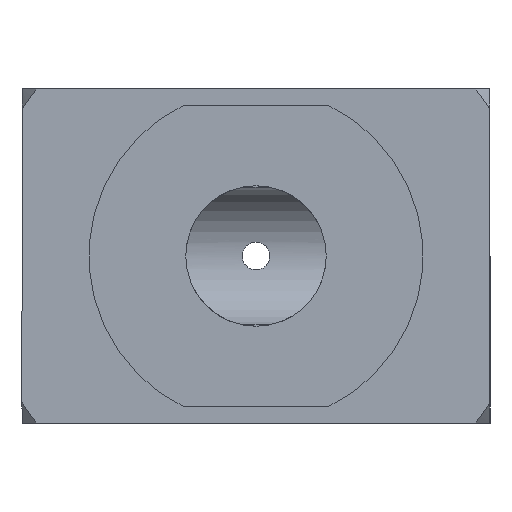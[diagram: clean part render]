
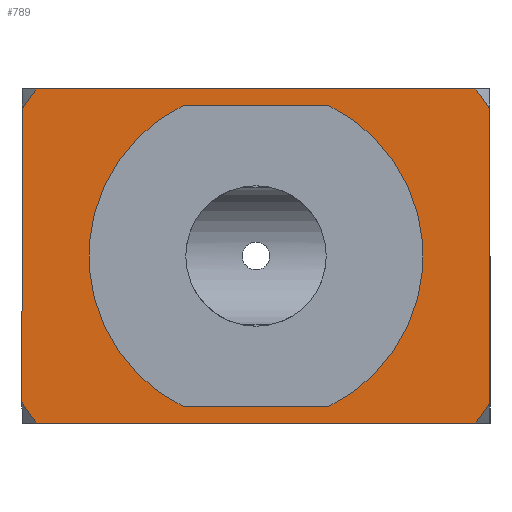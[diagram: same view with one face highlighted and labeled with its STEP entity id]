
A CAD part, left-side view. The second image highlights one B-rep face of the part: STEP entity #789.
In plain terms, the highlighted planar face has unit normal (-1, 0, 0).
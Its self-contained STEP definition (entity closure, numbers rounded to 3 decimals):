
#3 = AXIS2_PLACEMENT_3D ( 'NONE', #591, #626, #702 ) ;
#11 = FACE_OUTER_BOUND ( 'NONE', #879, .T. ) ;
#20 = EDGE_LOOP ( 'NONE', ( #630, #113, #525, #538 ) ) ;
#38 = DIRECTION ( 'NONE',  ( 0., -1., 0. ) ) ;
#39 = LINE ( 'NONE', #969, #76 ) ;
#46 = ORIENTED_EDGE ( 'NONE', *, *, #845, .T. ) ;
#52 = AXIS2_PLACEMENT_3D ( 'NONE', #611, #431, #697 ) ;
#72 = VECTOR ( 'NONE', #854, 1000. ) ;
#76 = VECTOR ( 'NONE', #886, 1000. ) ;
#105 = VECTOR ( 'NONE', #400, 1000. ) ;
#113 = ORIENTED_EDGE ( 'NONE', *, *, #475, .F. ) ;
#121 = ORIENTED_EDGE ( 'NONE', *, *, #169, .T. ) ;
#146 = VECTOR ( 'NONE', #244, 1000. ) ;
#169 = EDGE_CURVE ( 'NONE', #776, #603, #216, .T. ) ;
#170 = PLANE ( 'NONE',  #52 ) ;
#175 = VERTEX_POINT ( 'NONE', #233 ) ;
#180 = CARTESIAN_POINT ( 'NONE',  ( 4.8, 14., -0.634 ) ) ;
#188 = EDGE_CURVE ( 'NONE', #687, #175, #762, .T. ) ;
#216 = LINE ( 'NONE', #754, #105 ) ;
#233 = CARTESIAN_POINT ( 'NONE',  ( 4.8, 13.562, 0. ) ) ;
#235 = CIRCLE ( 'NONE', #1057, 8.25 ) ;
#237 = CARTESIAN_POINT ( 'NONE',  ( 4.8, 0., 0. ) ) ;
#244 = DIRECTION ( 'NONE',  ( 0., 1., 0. ) ) ;
#286 = VERTEX_POINT ( 'NONE', #688 ) ;
#287 = CARTESIAN_POINT ( 'NONE',  ( 4.8, 7., -5. ) ) ;
#298 = ORIENTED_EDGE ( 'NONE', *, *, #1007, .F. ) ;
#299 = VERTEX_POINT ( 'NONE', #421 ) ;
#316 = VECTOR ( 'NONE', #1028, 1000. ) ;
#320 = EDGE_CURVE ( 'NONE', #738, #175, #770, .T. ) ;
#323 = ORIENTED_EDGE ( 'NONE', *, *, #1093, .T. ) ;
#335 = CARTESIAN_POINT ( 'NONE',  ( 4.8, 14., -9.366 ) ) ;
#345 = CARTESIAN_POINT ( 'NONE',  ( 4.8, 0., -0.634 ) ) ;
#353 = LINE ( 'NONE', #942, #72 ) ;
#385 = AXIS2_PLACEMENT_3D ( 'NONE', #985, #486, #1070 ) ;
#389 = AXIS2_PLACEMENT_3D ( 'NONE', #287, #466, #798 ) ;
#400 = DIRECTION ( 'NONE',  ( 0., -1., 0. ) ) ;
#410 = AXIS2_PLACEMENT_3D ( 'NONE', #857, #534, #853 ) ;
#421 = CARTESIAN_POINT ( 'NONE',  ( 4.8, 9.179, -9.5 ) ) ;
#430 = CARTESIAN_POINT ( 'NONE',  ( 4.8, 7., -5. ) ) ;
#431 = DIRECTION ( 'NONE',  ( -1., 0., 0. ) ) ;
#460 = VERTEX_POINT ( 'NONE', #804 ) ;
#461 = CARTESIAN_POINT ( 'NONE',  ( 4.8, 0., -9.366 ) ) ;
#462 = FACE_BOUND ( 'NONE', #20, .T. ) ;
#466 = DIRECTION ( 'NONE',  ( -1., 0., 0. ) ) ;
#475 = EDGE_CURVE ( 'NONE', #299, #765, #706, .T. ) ;
#477 = VECTOR ( 'NONE', #38, 1000. ) ;
#485 = CIRCLE ( 'NONE', #982, 8.25 ) ;
#486 = DIRECTION ( 'NONE',  ( -1., 0., 0. ) ) ;
#492 = EDGE_CURVE ( 'NONE', #286, #460, #39, .T. ) ;
#507 = VERTEX_POINT ( 'NONE', #461 ) ;
#510 = ORIENTED_EDGE ( 'NONE', *, *, #188, .T. ) ;
#511 = EDGE_CURVE ( 'NONE', #765, #286, #608, .T. ) ;
#515 = CIRCLE ( 'NONE', #410, 8.25 ) ;
#525 = ORIENTED_EDGE ( 'NONE', *, *, #612, .F. ) ;
#526 = DIRECTION ( 'NONE',  ( 0., 0., 1. ) ) ;
#534 = DIRECTION ( 'NONE',  ( 1., 0., 0. ) ) ;
#538 = ORIENTED_EDGE ( 'NONE', *, *, #492, .F. ) ;
#591 = CARTESIAN_POINT ( 'NONE',  ( 4.8, 7., -5. ) ) ;
#603 = VERTEX_POINT ( 'NONE', #995 ) ;
#604 = DIRECTION ( 'NONE',  ( 1., 0., 0. ) ) ;
#608 = CIRCLE ( 'NONE', #389, 5. ) ;
#611 = CARTESIAN_POINT ( 'NONE',  ( 4.8, 0., 0. ) ) ;
#612 = EDGE_CURVE ( 'NONE', #460, #299, #966, .T. ) ;
#618 = DIRECTION ( 'NONE',  ( 0., 0., 1. ) ) ;
#626 = DIRECTION ( 'NONE',  ( 1., 0., 0. ) ) ;
#630 = ORIENTED_EDGE ( 'NONE', *, *, #511, .F. ) ;
#686 = ORIENTED_EDGE ( 'NONE', *, *, #815, .F. ) ;
#687 = VERTEX_POINT ( 'NONE', #759 ) ;
#688 = CARTESIAN_POINT ( 'NONE',  ( 4.8, 4.821, -0.5 ) ) ;
#691 = CARTESIAN_POINT ( 'NONE',  ( 4.8, 0., 0. ) ) ;
#697 = DIRECTION ( 'NONE',  ( 0., 0., 1. ) ) ;
#702 = DIRECTION ( 'NONE',  ( 0., 0., 1. ) ) ;
#706 = LINE ( 'NONE', #1053, #477 ) ;
#738 = VERTEX_POINT ( 'NONE', #180 ) ;
#754 = CARTESIAN_POINT ( 'NONE',  ( 4.8, 0., -10. ) ) ;
#759 = CARTESIAN_POINT ( 'NONE',  ( 4.8, 0.438, 0. ) ) ;
#762 = LINE ( 'NONE', #237, #146 ) ;
#765 = VERTEX_POINT ( 'NONE', #910 ) ;
#770 = CIRCLE ( 'NONE', #3, 8.25 ) ;
#771 = CARTESIAN_POINT ( 'NONE',  ( 4.8, 7., -5. ) ) ;
#773 = DIRECTION ( 'NONE',  ( 1., 0., 0. ) ) ;
#776 = VERTEX_POINT ( 'NONE', #1023 ) ;
#789 = ADVANCED_FACE ( 'NONE', ( #462, #11 ), #170, .T. ) ;
#798 = DIRECTION ( 'NONE',  ( 0., 0., 1. ) ) ;
#804 = CARTESIAN_POINT ( 'NONE',  ( 4.8, 9.179, -0.5 ) ) ;
#815 = EDGE_CURVE ( 'NONE', #507, #603, #485, .T. ) ;
#825 = VERTEX_POINT ( 'NONE', #335 ) ;
#830 = LINE ( 'NONE', #691, #316 ) ;
#845 = EDGE_CURVE ( 'NONE', #738, #825, #353, .T. ) ;
#853 = DIRECTION ( 'NONE',  ( 0., 0., -1. ) ) ;
#854 = DIRECTION ( 'NONE',  ( 0., 0., -1. ) ) ;
#857 = CARTESIAN_POINT ( 'NONE',  ( 4.8, 7., -5. ) ) ;
#879 = EDGE_LOOP ( 'NONE', ( #1046, #510, #929, #46, #298, #121, #686, #323 ) ) ;
#886 = DIRECTION ( 'NONE',  ( 0., 1., 0. ) ) ;
#910 = CARTESIAN_POINT ( 'NONE',  ( 4.8, 4.821, -9.5 ) ) ;
#929 = ORIENTED_EDGE ( 'NONE', *, *, #320, .F. ) ;
#942 = CARTESIAN_POINT ( 'NONE',  ( 4.8, 14., 0. ) ) ;
#966 = CIRCLE ( 'NONE', #385, 5. ) ;
#969 = CARTESIAN_POINT ( 'NONE',  ( 4.8, 12.011, -0.5 ) ) ;
#982 = AXIS2_PLACEMENT_3D ( 'NONE', #771, #773, #526 ) ;
#985 = CARTESIAN_POINT ( 'NONE',  ( 4.8, 7., -5. ) ) ;
#995 = CARTESIAN_POINT ( 'NONE',  ( 4.8, 0.438, -10. ) ) ;
#1007 = EDGE_CURVE ( 'NONE', #776, #825, #515, .T. ) ;
#1023 = CARTESIAN_POINT ( 'NONE',  ( 4.8, 13.562, -10. ) ) ;
#1028 = DIRECTION ( 'NONE',  ( 0., 0., 1. ) ) ;
#1041 = VERTEX_POINT ( 'NONE', #345 ) ;
#1046 = ORIENTED_EDGE ( 'NONE', *, *, #1048, .F. ) ;
#1048 = EDGE_CURVE ( 'NONE', #687, #1041, #235, .T. ) ;
#1053 = CARTESIAN_POINT ( 'NONE',  ( 4.8, 12.011, -9.5 ) ) ;
#1057 = AXIS2_PLACEMENT_3D ( 'NONE', #430, #604, #618 ) ;
#1070 = DIRECTION ( 'NONE',  ( 0., 0., 1. ) ) ;
#1093 = EDGE_CURVE ( 'NONE', #507, #1041, #830, .T. ) ;
